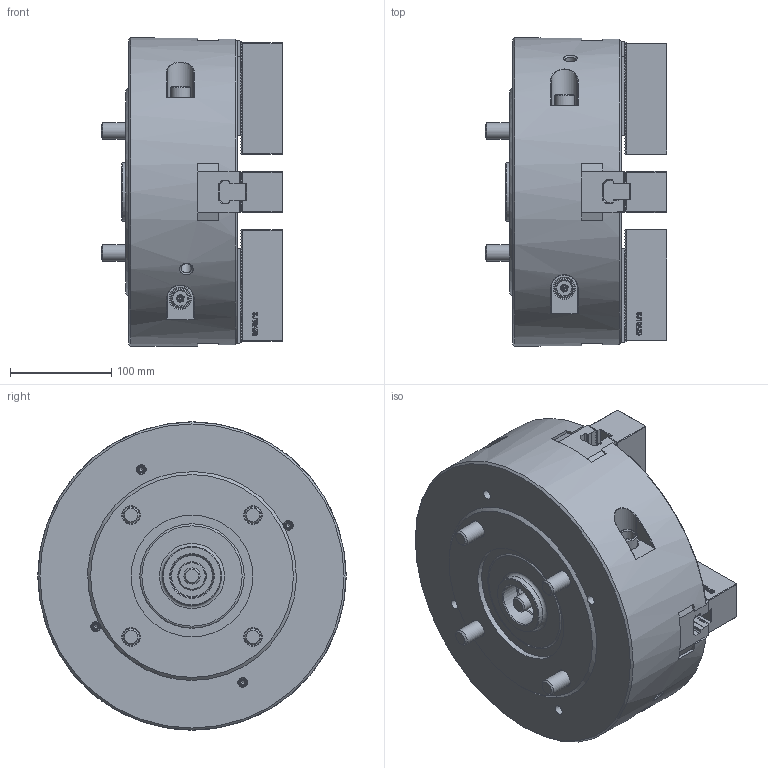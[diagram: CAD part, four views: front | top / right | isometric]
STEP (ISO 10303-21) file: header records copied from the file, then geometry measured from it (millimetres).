
FILE_DESCRIPTION (( 'STEP AP214' ), '1' );
FILE_NAME ('DT1_HW-12_OUTSIDE_VIEW_OC.STEP', '2024-05-10T00:23:22', ( '' ), ( '' ), 'SwSTEP 2.0', 'SolidWorks 2022', '' );
FILE_SCHEMA (( 'AUTOMOTIVE_DESIGN' ));
Length unit declared in the file: millimetre
Products named in the file (10): DT1_HW-12_BASE^DT1_HW-12_ﾃﾞﾌｫﾙﾄ; DT1_HW-12_M16x115^DT1_HW-12_ﾃﾞﾌｫﾙﾄ; DT1_HW-12_M12x35^DT1_HW-12_ﾃﾞﾌｫﾙﾄ; DT1_HW-12_COVER^DT1_HW-12_ﾃﾞﾌｫﾙﾄ; DT1_HW-12_SOFTJAW^DT1_HW-12_ﾃﾞﾌｫﾙﾄ; DT1_HW-12_DN^DT1_HW-12_ﾃﾞﾌｫﾙﾄ; DT1_HW-12_DRAWSCREW^DT1_HW-12_ﾃﾞﾌｫﾙﾄ; DT1_HW-12_OUTSIDE_VIEW_OC; DT1_HW-12_TNUT^DT1_HW-12_ﾃﾞﾌｫﾙﾄ; DT1_HW-12_M5x10^DT1_HW-12_ﾃﾞﾌｫﾙﾄ
Assembly tree (28 placements, depth 2):
  DT1_HW-12_OUTSIDE_VIEW_OC
    DT1_HW-12_SOFTJAW^DT1_HW-12_ﾃﾞﾌｫﾙﾄ  x4
    DT1_HW-12_TNUT^DT1_HW-12_ﾃﾞﾌｫﾙﾄ  x4
    DT1_HW-12_COVER^DT1_HW-12_ﾃﾞﾌｫﾙﾄ
    DT1_HW-12_DRAWSCREW^DT1_HW-12_ﾃﾞﾌｫﾙﾄ
    DT1_HW-12_DN^DT1_HW-12_ﾃﾞﾌｫﾙﾄ
    DT1_HW-12_BASE^DT1_HW-12_ﾃﾞﾌｫﾙﾄ
    DT1_HW-12_M16x115^DT1_HW-12_ﾃﾞﾌｫﾙﾄ  x4
    DT1_HW-12_M12x35^DT1_HW-12_ﾃﾞﾌｫﾙﾄ  x8
    DT1_HW-12_M5x10^DT1_HW-12_ﾃﾞﾌｫﾙﾄ  x4
Bounding box: 179 x 304 x 304 mm (x, y, z)
Volume: 8301118.2 mm3; surface area: 585881.3 mm2
Topology: 28 solids, 38 shells, 4765 faces, 13388 edges, 8852 vertices
Faces by surface type: plane 3304, cylinder 760, bspline 387, cone 279, torus 31, sphere 4
Full cylindrical faces by diameter (mm): 2 x4, 4.2 x4, 5 x4, 5.5 x4, 6.8 x4, 8.72 x4, 9.5 x8, 10.2 x10, 12 x8, 13 x8, 13.27 x4, 13.835 x1, 14 x5, 15 x4, 16 x6, 17 x4, 18.27 x8, 19 x8, 19.6 x4, 20.5 x4, 24.33 x5, 25 x5, 28 x1, 40.376 x1, 42 x1, 44 x1, 58 x1, 103 x1, 120 x1, 304 x1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
Entity records: 110837 total; most frequent: CARTESIAN_POINT 32370, ORIENTED_EDGE 17166, DIRECTION 14324, EDGE_CURVE 8583, VECTOR 6586, LINE 6586, VERTEX_POINT 5783, AXIS2_PLACEMENT_3D 3869
